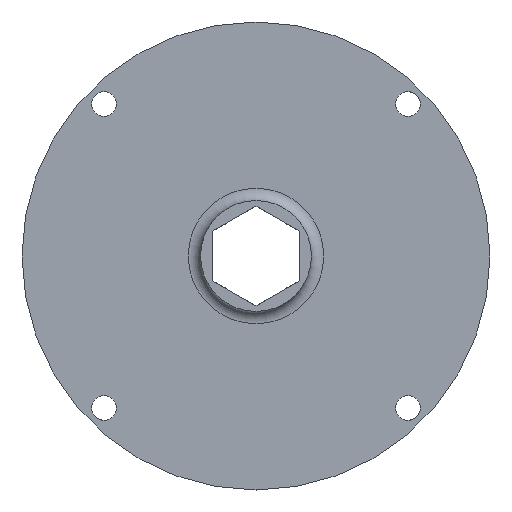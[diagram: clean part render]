
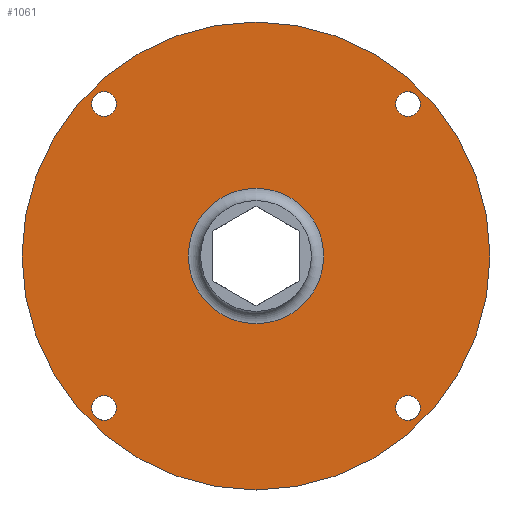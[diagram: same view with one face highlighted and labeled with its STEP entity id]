
A CAD part, left-side view. The second image highlights one B-rep face of the part: STEP entity #1061.
In plain terms, the highlighted planar face has unit normal (-1, 0, 0).
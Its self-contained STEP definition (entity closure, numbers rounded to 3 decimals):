
#443=CARTESIAN_POINT('',(-3.,13.34,12.34));
#444=VERTEX_POINT('',#443);
#451=CARTESIAN_POINT('',(-3.,12.34,12.34));
#452=DIRECTION('',(0.,1.,0.));
#453=DIRECTION('',(-1.,0.,0.));
#454=AXIS2_PLACEMENT_3D('',#451,#453,#452);
#455=CIRCLE('',#454,1.);
#456=EDGE_CURVE('',#444,#444,#455,.T.);
#502=CARTESIAN_POINT('',(-3.,-11.34,12.34));
#503=VERTEX_POINT('',#502);
#510=CARTESIAN_POINT('',(-3.,-12.34,12.34));
#511=DIRECTION('',(0.,1.,0.));
#512=DIRECTION('',(-1.,0.,0.));
#513=AXIS2_PLACEMENT_3D('',#510,#512,#511);
#514=CIRCLE('',#513,1.);
#515=EDGE_CURVE('',#503,#503,#514,.T.);
#565=CARTESIAN_POINT('',(-3.,-11.34,-12.34));
#566=VERTEX_POINT('',#565);
#573=CARTESIAN_POINT('',(-3.,-12.34,-12.34));
#574=DIRECTION('',(0.,1.,0.));
#575=DIRECTION('',(-1.,0.,0.));
#576=AXIS2_PLACEMENT_3D('',#573,#575,#574);
#577=CIRCLE('',#576,1.);
#578=EDGE_CURVE('',#566,#566,#577,.T.);
#1014=CARTESIAN_POINT('',(-3.,-9.5,0.));
#1015=DIRECTION('',(0.,1.,0.));
#1016=DIRECTION('',(-1.,0.,0.));
#1017=AXIS2_PLACEMENT_3D('',#1014,#1016,#1015);
#1018=PLANE('',#1017);
#1019=CARTESIAN_POINT('',(-3.,19.,0.));
#1020=VERTEX_POINT('',#1019);
#1021=CARTESIAN_POINT('',(-3.,0.,0.));
#1022=DIRECTION('',(0.,1.,0.));
#1023=DIRECTION('',(1.,0.,0.));
#1024=AXIS2_PLACEMENT_3D('',#1021,#1023,#1022);
#1025=CIRCLE('',#1024,19.);
#1026=EDGE_CURVE('',#1020,#1020,#1025,.T.);
#1027=ORIENTED_EDGE('E15',*,*,#1026,.F.);
#1028=EDGE_LOOP('',(#1027));
#1029=FACE_OUTER_BOUND('',#1028,.T.);
#1030=CARTESIAN_POINT('',(-3.,13.34,-12.34));
#1031=VERTEX_POINT('',#1030);
#1032=CARTESIAN_POINT('',(-3.,12.34,-12.34));
#1033=DIRECTION('',(0.,1.,0.));
#1034=DIRECTION('',(-1.,0.,0.));
#1035=AXIS2_PLACEMENT_3D('',#1032,#1034,#1033);
#1036=CIRCLE('',#1035,1.);
#1037=EDGE_CURVE('',#1031,#1031,#1036,.T.);
#1038=ORIENTED_EDGE('E76',*,*,#1037,.F.);
#1039=EDGE_LOOP('',(#1038));
#1040=FACE_BOUND('',#1039,.T.);
#1041=ORIENTED_EDGE('',*,*,#456,.F.);
#1042=EDGE_LOOP('',(#1041));
#1043=FACE_BOUND('',#1042,.T.);
#1044=ORIENTED_EDGE('',*,*,#515,.F.);
#1045=EDGE_LOOP('',(#1044));
#1046=FACE_BOUND('',#1045,.T.);
#1047=ORIENTED_EDGE('',*,*,#578,.F.);
#1048=EDGE_LOOP('',(#1047));
#1049=FACE_BOUND('',#1048,.T.);
#1050=CARTESIAN_POINT('',(-3.,-5.5,0.));
#1051=VERTEX_POINT('',#1050);
#1052=CARTESIAN_POINT('',(-3.,0.,0.));
#1053=DIRECTION('',(0.,-1.,0.));
#1054=DIRECTION('',(1.,0.,0.));
#1055=AXIS2_PLACEMENT_3D('',#1052,#1054,#1053);
#1056=CIRCLE('',#1055,5.5);
#1057=EDGE_CURVE('',#1051,#1051,#1056,.T.);
#1058=ORIENTED_EDGE('E121',*,*,#1057,.T.);
#1059=EDGE_LOOP('',(#1058));
#1060=FACE_BOUND('',#1059,.T.);
#1061=ADVANCED_FACE('F72',(#1029,#1040,#1043,#1046,#1049,#1060),#1018,.T.);
